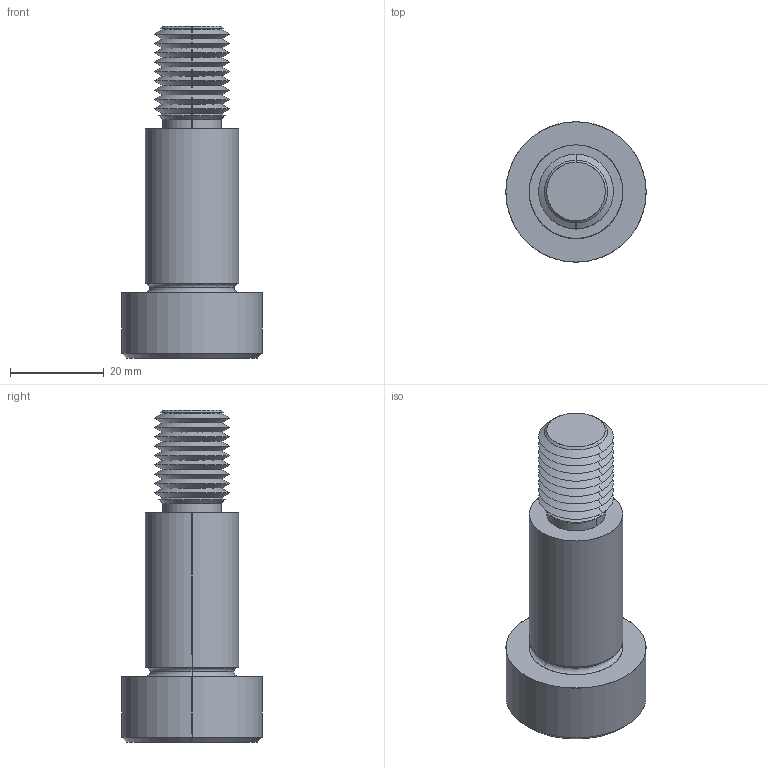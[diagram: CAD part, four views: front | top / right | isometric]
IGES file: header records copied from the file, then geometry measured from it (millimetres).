
Start section: SolidWorks IGES file using analytic representation for surfaces
Global section: file name: C:\Users\IanO\Documents\Temp Folder\GENERAL\SCREW REVISION\P0130_v2\P0130.T5_v2_20220106_IGES\P0130.200-035-T5.igs; native system: SolidWorks 2019; preprocessor: SolidWorks 2019; author: IanO; date: 220106.225911; units: millimetre
Bounding box: 30 x 30 x 71 mm (x, y, z)
Surface area: 7117.1 mm2 (no closed solid volume)
Topology: 0 solids, 0 shells, 80 faces, 692 edges, 690 vertices
Faces by surface type: revolution 60, bspline 20
